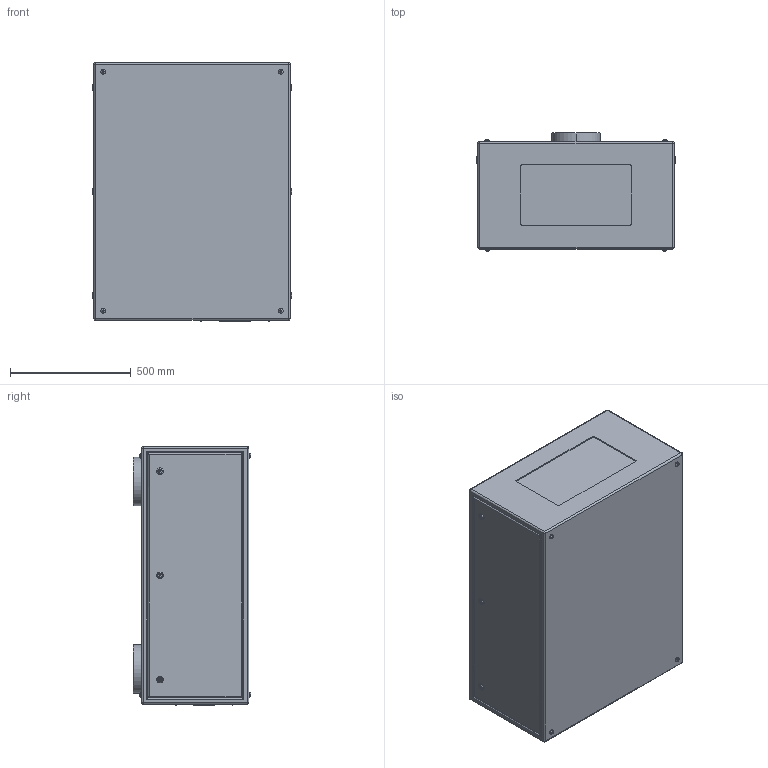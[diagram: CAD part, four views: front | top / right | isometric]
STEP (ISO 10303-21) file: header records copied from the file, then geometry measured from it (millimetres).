
FILE_DESCRIPTION (( 'STEP AP214' ), '1' );
FILE_NAME ('Tacit 56.150.L R07.STEP', '2022-09-11T22:47:34', ( '' ), ( '' ), 'SwSTEP 2.0', 'SolidWorks 2020', '' );
FILE_SCHEMA (( 'AUTOMOTIVE_DESIGN' ));
Length unit declared in the file: inch
Products named in the file (1): Tacit 56.150.L R07
Bounding box: 825.5 x 487.55 x 1071.88 mm (x, y, z)
Volume: 384518085.6 mm3; surface area: 3737491.3 mm2
Topology: 1 solids, 5 shells, 383 faces, 852 edges, 536 vertices
Faces by surface type: plane 199, cylinder 136, torus 40, sphere 8
Entity records: 13917 total; most frequent: DIRECTION 1916, CARTESIAN_POINT 1812, ORIENTED_EDGE 1688, EDGE_CURVE 844, AXIS2_PLACEMENT_3D 704, VERTEX_POINT 536, LINE 508, VECTOR 508
